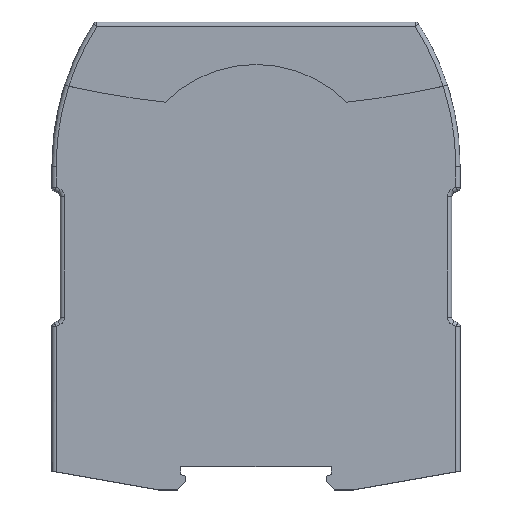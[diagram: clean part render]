
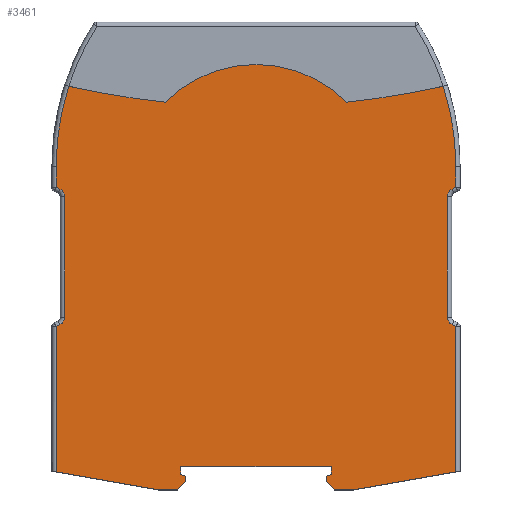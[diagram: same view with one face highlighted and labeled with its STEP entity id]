
A CAD part, top view. The second image highlights one B-rep face of the part: STEP entity #3461.
In plain terms, the highlighted planar face has unit normal (0, 0, 1).
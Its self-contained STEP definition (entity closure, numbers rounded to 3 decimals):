
#622=DIRECTION('',(0.,-1.,0.));
#623=VECTOR('',#622,34.15);
#624=CARTESIAN_POINT('',(-47.,38.382,22.5));
#625=LINE('',#624,#623);
#629=DIRECTION('',(-0.894,-0.447,0.));
#630=VECTOR('',#629,1.);
#631=CARTESIAN_POINT('',(-46.106,38.829,22.5));
#632=LINE('',#631,#630);
#636=CARTESIAN_POINT('',(-47.,40.618,22.5));
#637=DIRECTION('',(0.,0.,-1.));
#638=DIRECTION('',(1.,0.,0.));
#639=AXIS2_PLACEMENT_3D('',#636,#637,#638);
#644=DIRECTION('',(0.,-1.,0.));
#645=VECTOR('',#644,28.264);
#646=CARTESIAN_POINT('',(-45.,68.882,22.5));
#647=LINE('',#646,#645);
#651=CARTESIAN_POINT('',(-47.,68.882,22.5));
#652=DIRECTION('',(0.,0.,-1.));
#653=DIRECTION('',(0.447,0.894,0.));
#654=AXIS2_PLACEMENT_3D('',#651,#652,#653);
#659=DIRECTION('',(0.894,-0.447,0.));
#660=VECTOR('',#659,1.);
#661=CARTESIAN_POINT('',(-47.,71.118,22.5));
#662=LINE('',#661,#660);
#666=DIRECTION('',(0.,-1.,0.));
#667=VECTOR('',#666,4.882);
#668=CARTESIAN_POINT('',(-47.,76.,22.5));
#669=LINE('',#668,#667);
#673=CARTESIAN_POINT('',(14.531,76.,22.5));
#674=DIRECTION('',(0.,0.,1.));
#675=DIRECTION('',(-0.952,0.307,0.));
#676=AXIS2_PLACEMENT_3D('',#673,#674,#675);
#681=CARTESIAN_POINT('',(0.,290.,22.5));
#682=DIRECTION('',(0.,0.,1.));
#683=DIRECTION('',(-0.22,-0.975,0.));
#684=AXIS2_PLACEMENT_3D('',#681,#682,#683);
#689=CARTESIAN_POINT('',(0.,70.,22.5));
#690=DIRECTION('',(0.,0.,1.));
#691=DIRECTION('',(0.71,0.705,0.));
#692=AXIS2_PLACEMENT_3D('',#689,#690,#691);
#697=CARTESIAN_POINT('',(0.,290.,22.5));
#698=DIRECTION('',(0.,0.,1.));
#699=DIRECTION('',(0.106,-0.994,0.));
#700=AXIS2_PLACEMENT_3D('',#697,#698,#699);
#705=CARTESIAN_POINT('',(-14.531,76.,22.5));
#706=DIRECTION('',(0.,0.,1.));
#707=DIRECTION('',(1.,0.,0.));
#708=AXIS2_PLACEMENT_3D('',#705,#706,#707);
#713=DIRECTION('',(0.,1.,0.));
#714=VECTOR('',#713,4.882);
#715=CARTESIAN_POINT('',(47.,71.118,22.5));
#716=LINE('',#715,#714);
#720=DIRECTION('',(0.894,0.447,0.));
#721=VECTOR('',#720,1.);
#722=CARTESIAN_POINT('',(46.106,70.671,22.5));
#723=LINE('',#722,#721);
#727=CARTESIAN_POINT('',(47.,68.882,22.5));
#728=DIRECTION('',(0.,0.,-1.));
#729=DIRECTION('',(-1.,0.,0.));
#730=AXIS2_PLACEMENT_3D('',#727,#728,#729);
#735=DIRECTION('',(0.,1.,0.));
#736=VECTOR('',#735,28.264);
#737=CARTESIAN_POINT('',(45.,40.618,22.5));
#738=LINE('',#737,#736);
#742=CARTESIAN_POINT('',(47.,40.618,22.5));
#743=DIRECTION('',(0.,0.,-1.));
#744=DIRECTION('',(-0.447,-0.894,0.));
#745=AXIS2_PLACEMENT_3D('',#742,#743,#744);
#750=DIRECTION('',(-0.894,0.447,0.));
#751=VECTOR('',#750,1.);
#752=CARTESIAN_POINT('',(47.,38.382,22.5));
#753=LINE('',#752,#751);
#757=DIRECTION('',(0.,1.,0.));
#758=VECTOR('',#757,34.15);
#759=CARTESIAN_POINT('',(47.,4.232,22.5));
#760=LINE('',#759,#758);
#764=DIRECTION('',(0.985,0.174,0.));
#765=VECTOR('',#764,24.37);
#766=CARTESIAN_POINT('',(23.,0.,22.5));
#767=LINE('',#766,#765);
#771=DIRECTION('',(0.707,-0.707,0.));
#772=VECTOR('',#771,2.828);
#773=CARTESIAN_POINT('',(16.5,2.,22.5));
#774=LINE('',#773,#772);
#778=DIRECTION('',(0.,-1.,0.));
#779=VECTOR('',#778,1.208);
#780=CARTESIAN_POINT('',(16.5,3.208,22.5));
#781=LINE('',#780,#779);
#785=DIRECTION('',(-0.94,-0.342,0.));
#786=VECTOR('',#785,1.277);
#787=CARTESIAN_POINT('',(17.7,3.645,22.5));
#788=LINE('',#787,#786);
#792=DIRECTION('',(0.,1.,0.));
#793=VECTOR('',#792,1.855);
#794=CARTESIAN_POINT('',(17.7,3.645,22.5));
#795=LINE('',#794,#793);
#799=DIRECTION('',(-1.,0.,0.));
#800=VECTOR('',#799,35.4);
#801=CARTESIAN_POINT('',(17.7,5.5,22.5));
#802=LINE('',#801,#800);
#806=DIRECTION('',(0.,1.,0.));
#807=VECTOR('',#806,1.855);
#808=CARTESIAN_POINT('',(-17.7,3.645,22.5));
#809=LINE('',#808,#807);
#813=DIRECTION('',(-0.94,0.342,0.));
#814=VECTOR('',#813,1.277);
#815=CARTESIAN_POINT('',(-16.5,3.208,22.5));
#816=LINE('',#815,#814);
#820=DIRECTION('',(0.,1.,0.));
#821=VECTOR('',#820,1.208);
#822=CARTESIAN_POINT('',(-16.5,2.,22.5));
#823=LINE('',#822,#821);
#827=DIRECTION('',(0.707,0.707,0.));
#828=VECTOR('',#827,2.828);
#829=CARTESIAN_POINT('',(-18.5,0.,22.5));
#830=LINE('',#829,#828);
#834=DIRECTION('',(0.985,-0.174,0.));
#835=VECTOR('',#834,24.37);
#836=CARTESIAN_POINT('',(-47.,4.232,22.5));
#837=LINE('',#836,#835);
#849=CARTESIAN_POINT('',(-47.,4.232,22.5));
#871=DIRECTION('',(1.,0.,0.));
#872=VECTOR('',#871,4.5);
#873=CARTESIAN_POINT('',(-23.,0.,22.5));
#874=LINE('',#873,#872);
#906=DIRECTION('',(1.,0.,0.));
#907=VECTOR('',#906,4.5);
#908=CARTESIAN_POINT('',(18.5,0.,22.5));
#909=LINE('',#908,#907);
#989=CARTESIAN_POINT('',(47.,4.232,22.5));
#2684=CARTESIAN_POINT('',(23.,0.,22.5));
#2686=VERTEX_POINT('',#2684);
#2688=CARTESIAN_POINT('',(-23.,0.,22.5));
#2690=VERTEX_POINT('',#2688);
#2696=CARTESIAN_POINT('',(17.7,5.5,22.5));
#2697=CARTESIAN_POINT('',(-17.7,5.5,22.5));
#2698=VERTEX_POINT('',#2696);
#2699=VERTEX_POINT('',#2697);
#2712=CARTESIAN_POINT('',(-18.5,0.,22.5));
#2713=CARTESIAN_POINT('',(-16.5,2.,22.5));
#2714=VERTEX_POINT('',#2712);
#2715=VERTEX_POINT('',#2713);
#2716=CARTESIAN_POINT('',(-16.5,3.208,22.5));
#2717=VERTEX_POINT('',#2716);
#2718=CARTESIAN_POINT('',(16.5,3.208,22.5));
#2719=CARTESIAN_POINT('',(16.5,2.,22.5));
#2720=VERTEX_POINT('',#2718);
#2721=VERTEX_POINT('',#2719);
#2722=CARTESIAN_POINT('',(18.5,0.,22.5));
#2723=VERTEX_POINT('',#2722);
#2728=CARTESIAN_POINT('',(-17.7,3.645,22.5));
#2729=VERTEX_POINT('',#2728);
#2730=CARTESIAN_POINT('',(17.7,3.645,22.5));
#2731=VERTEX_POINT('',#2730);
#2756=CARTESIAN_POINT('',(21.29,91.136,22.5));
#2757=CARTESIAN_POINT('',(-21.29,91.136,22.5));
#2758=VERTEX_POINT('',#2756);
#2759=VERTEX_POINT('',#2757);
#2895=VERTEX_POINT('',#849);
#2899=CARTESIAN_POINT('',(-47.,38.382,22.5));
#2900=VERTEX_POINT('',#2899);
#2903=CARTESIAN_POINT('',(-46.106,38.829,22.5));
#2904=VERTEX_POINT('',#2903);
#2907=CARTESIAN_POINT('',(-45.,40.618,22.5));
#2908=VERTEX_POINT('',#2907);
#2911=CARTESIAN_POINT('',(-45.,68.882,22.5));
#2912=VERTEX_POINT('',#2911);
#2915=CARTESIAN_POINT('',(-46.106,70.671,22.5));
#2916=VERTEX_POINT('',#2915);
#2919=CARTESIAN_POINT('',(-47.,71.118,22.5));
#2920=VERTEX_POINT('',#2919);
#2925=CARTESIAN_POINT('',(-47.,76.,22.5));
#2926=VERTEX_POINT('',#2925);
#2929=CARTESIAN_POINT('',(-44.024,94.905,22.5));
#2930=VERTEX_POINT('',#2929);
#2957=CARTESIAN_POINT('',(47.,76.,22.5));
#2958=CARTESIAN_POINT('',(44.024,94.905,22.5));
#2959=VERTEX_POINT('',#2957);
#2960=VERTEX_POINT('',#2958);
#2961=CARTESIAN_POINT('',(47.,71.118,22.5));
#2962=VERTEX_POINT('',#2961);
#2967=CARTESIAN_POINT('',(46.106,70.671,22.5));
#2968=VERTEX_POINT('',#2967);
#2971=CARTESIAN_POINT('',(45.,68.882,22.5));
#2972=VERTEX_POINT('',#2971);
#2975=CARTESIAN_POINT('',(45.,40.618,22.5));
#2976=VERTEX_POINT('',#2975);
#2979=CARTESIAN_POINT('',(46.106,38.829,22.5));
#2980=VERTEX_POINT('',#2979);
#2983=CARTESIAN_POINT('',(47.,38.382,22.5));
#2984=VERTEX_POINT('',#2983);
#2990=VERTEX_POINT('',#989);
#3393=CARTESIAN_POINT('',(0.,0.,22.5));
#3394=DIRECTION('',(0.,0.,1.));
#3395=DIRECTION('',(1.,0.,0.));
#3396=AXIS2_PLACEMENT_3D('',#3393,#3394,#3395);
#3397=PLANE('',#3396);
#3399=ORIENTED_EDGE('',*,*,#3398,.F.);
#3401=ORIENTED_EDGE('',*,*,#3400,.F.);
#3403=ORIENTED_EDGE('',*,*,#3402,.F.);
#3405=ORIENTED_EDGE('',*,*,#3404,.F.);
#3407=ORIENTED_EDGE('',*,*,#3406,.F.);
#3409=ORIENTED_EDGE('',*,*,#3408,.F.);
#3411=ORIENTED_EDGE('',*,*,#3410,.F.);
#3413=ORIENTED_EDGE('',*,*,#3412,.F.);
#3415=ORIENTED_EDGE('',*,*,#3414,.T.);
#3417=ORIENTED_EDGE('',*,*,#3416,.F.);
#3418=ORIENTED_EDGE('',*,*,#3357,.T.);
#3419=ORIENTED_EDGE('',*,*,#3372,.F.);
#3420=ORIENTED_EDGE('',*,*,#3383,.F.);
#3422=ORIENTED_EDGE('',*,*,#3421,.F.);
#3424=ORIENTED_EDGE('',*,*,#3423,.F.);
#3426=ORIENTED_EDGE('',*,*,#3425,.F.);
#3428=ORIENTED_EDGE('',*,*,#3427,.F.);
#3430=ORIENTED_EDGE('',*,*,#3429,.F.);
#3432=ORIENTED_EDGE('',*,*,#3431,.F.);
#3434=ORIENTED_EDGE('',*,*,#3433,.F.);
#3436=ORIENTED_EDGE('',*,*,#3435,.F.);
#3438=ORIENTED_EDGE('',*,*,#3437,.F.);
#3440=ORIENTED_EDGE('',*,*,#3439,.F.);
#3442=ORIENTED_EDGE('',*,*,#3441,.F.);
#3444=ORIENTED_EDGE('',*,*,#3443,.T.);
#3446=ORIENTED_EDGE('',*,*,#3445,.T.);
#3448=ORIENTED_EDGE('',*,*,#3447,.F.);
#3450=ORIENTED_EDGE('',*,*,#3449,.F.);
#3452=ORIENTED_EDGE('',*,*,#3451,.F.);
#3454=ORIENTED_EDGE('',*,*,#3453,.F.);
#3456=ORIENTED_EDGE('',*,*,#3455,.F.);
#3458=ORIENTED_EDGE('',*,*,#3457,.F.);
#3459=EDGE_LOOP('',(#3399,#3401,#3403,#3405,#3407,#3409,#3411,#3413,#3415,#3417,
#3418,#3419,#3420,#3422,#3424,#3426,#3428,#3430,#3432,#3434,#3436,#3438,#3440,
#3442,#3444,#3446,#3448,#3450,#3452,#3454,#3456,#3458));
#3460=FACE_OUTER_BOUND('',#3459,.F.);
#640=CIRCLE('',#639,2.);
#655=CIRCLE('',#654,2.);
#677=CIRCLE('',#676,61.531);
#685=CIRCLE('',#684,200.);
#693=CIRCLE('',#692,30.);
#701=CIRCLE('',#700,200.);
#709=CIRCLE('',#708,61.531);
#731=CIRCLE('',#730,2.);
#746=CIRCLE('',#745,2.);
#3357=EDGE_CURVE('',#2758,#2960,#701,.T.);
#3372=EDGE_CURVE('',#2959,#2960,#709,.T.);
#3383=EDGE_CURVE('',#2962,#2959,#716,.T.);
#3398=EDGE_CURVE('',#2900,#2895,#625,.T.);
#3400=EDGE_CURVE('',#2904,#2900,#632,.T.);
#3402=EDGE_CURVE('',#2908,#2904,#640,.T.);
#3404=EDGE_CURVE('',#2912,#2908,#647,.T.);
#3406=EDGE_CURVE('',#2916,#2912,#655,.T.);
#3408=EDGE_CURVE('',#2920,#2916,#662,.T.);
#3410=EDGE_CURVE('',#2926,#2920,#669,.T.);
#3412=EDGE_CURVE('',#2930,#2926,#677,.T.);
#3414=EDGE_CURVE('',#2930,#2759,#685,.T.);
#3416=EDGE_CURVE('',#2758,#2759,#693,.T.);
#3421=EDGE_CURVE('',#2968,#2962,#723,.T.);
#3423=EDGE_CURVE('',#2972,#2968,#731,.T.);
#3425=EDGE_CURVE('',#2976,#2972,#738,.T.);
#3427=EDGE_CURVE('',#2980,#2976,#746,.T.);
#3429=EDGE_CURVE('',#2984,#2980,#753,.T.);
#3431=EDGE_CURVE('',#2990,#2984,#760,.T.);
#3433=EDGE_CURVE('',#2686,#2990,#767,.T.);
#3435=EDGE_CURVE('',#2723,#2686,#909,.T.);
#3437=EDGE_CURVE('',#2721,#2723,#774,.T.);
#3439=EDGE_CURVE('',#2720,#2721,#781,.T.);
#3441=EDGE_CURVE('',#2731,#2720,#788,.T.);
#3443=EDGE_CURVE('',#2731,#2698,#795,.T.);
#3445=EDGE_CURVE('',#2698,#2699,#802,.T.);
#3447=EDGE_CURVE('',#2729,#2699,#809,.T.);
#3449=EDGE_CURVE('',#2717,#2729,#816,.T.);
#3451=EDGE_CURVE('',#2715,#2717,#823,.T.);
#3453=EDGE_CURVE('',#2714,#2715,#830,.T.);
#3455=EDGE_CURVE('',#2690,#2714,#874,.T.);
#3457=EDGE_CURVE('',#2895,#2690,#837,.T.);
#3461=ADVANCED_FACE('',(#3460),#3397,.T.);
